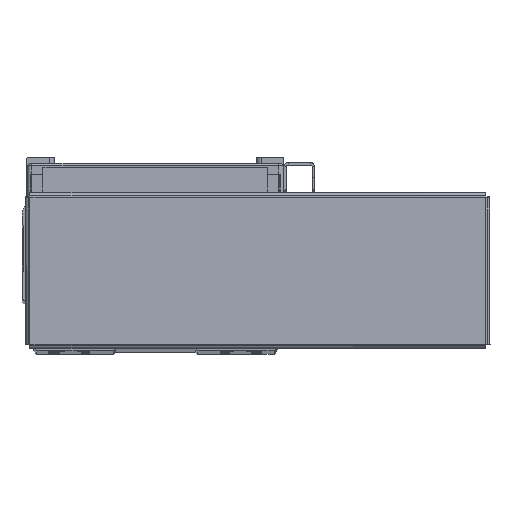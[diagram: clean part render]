
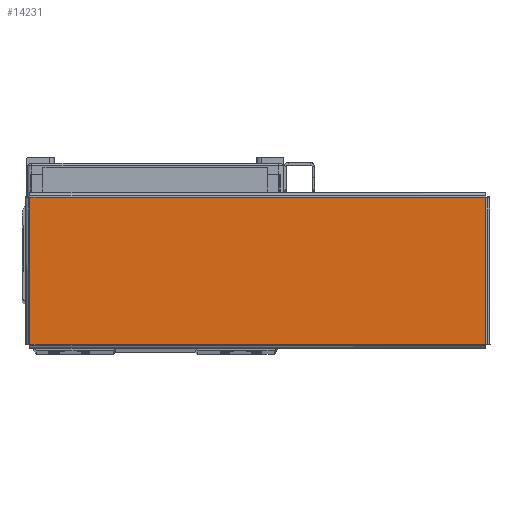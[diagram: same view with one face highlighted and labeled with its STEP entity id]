
A CAD part, top view. The second image highlights one B-rep face of the part: STEP entity #14231.
In plain terms, the highlighted planar face has unit normal (0, 0, 1) as drawn and (0, -1, 0) by its records, which use the part's own axes.
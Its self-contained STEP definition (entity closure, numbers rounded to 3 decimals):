
#1088 = CARTESIAN_POINT ( 'NONE',  ( 92.293, -1., 29.763 ) ) ;
#1089 = DIRECTION ( 'NONE',  ( -1., 0., 0. ) ) ;
#1215 = DIRECTION ( 'NONE',  ( 0., 0., 1. ) ) ;
#1226 = CARTESIAN_POINT ( 'NONE',  ( 92.263, -1., -29.793 ) ) ;
#1508 = CARTESIAN_POINT ( 'NONE',  ( -92.263, -1., 29.793 ) ) ;
#1515 = DIRECTION ( 'NONE',  ( 1., 0., 0. ) ) ;
#1535 = CARTESIAN_POINT ( 'NONE',  ( -92.293, -1., -29.763 ) ) ;
#1568 = DIRECTION ( 'NONE',  ( 0., 0., -1. ) ) ;
#14231 = ADVANCED_FACE ( 'NONE', ( #26248 ), #23629, .F. ) ;
#23624 = CARTESIAN_POINT ( 'NONE',  ( 0., -1., 0. ) ) ;
#23626 = DIRECTION ( 'NONE',  ( 0., 1., 0. ) ) ;
#23629 = PLANE ( 'NONE',  #41438 ) ;
#23631 = DIRECTION ( 'NONE',  ( 0., 0., 1. ) ) ;
#26248 = FACE_OUTER_BOUND ( 'NONE', #29613, .T. ) ;
#29613 = EDGE_LOOP ( 'NONE', ( #39110, #39113, #39080, #39117 ) ) ;
#31467 = EDGE_CURVE ( 'NONE', #47081, #47125, #41855, .T. ) ;
#31493 = EDGE_CURVE ( 'NONE', #47034, #47081, #41810, .T. ) ;
#31614 = EDGE_CURVE ( 'NONE', #47131, #47034, #41951, .T. ) ;
#31616 = EDGE_CURVE ( 'NONE', #47125, #47131, #41977, .T. ) ;
#33780 = CARTESIAN_POINT ( 'NONE',  ( 92.263, -1., -29.763 ) ) ;
#33855 = CARTESIAN_POINT ( 'NONE',  ( 92.263, -1., 29.763 ) ) ;
#33897 = CARTESIAN_POINT ( 'NONE',  ( -92.263, -1., -29.763 ) ) ;
#33918 = CARTESIAN_POINT ( 'NONE',  ( -92.263, -1., 29.763 ) ) ;
#39080 = ORIENTED_EDGE ( 'NONE', *, *, #31467, .T. ) ;
#39110 = ORIENTED_EDGE ( 'NONE', *, *, #31614, .T. ) ;
#39113 = ORIENTED_EDGE ( 'NONE', *, *, #31493, .T. ) ;
#39117 = ORIENTED_EDGE ( 'NONE', *, *, #31616, .T. ) ;
#41438 = AXIS2_PLACEMENT_3D ( 'NONE', #23624, #23626, #23631 ) ;
#41810 = LINE ( 'NONE', #1226, #41846 ) ;
#41816 = VECTOR ( 'NONE', #1089, 1000. ) ;
#41846 = VECTOR ( 'NONE', #1215, 1000. ) ;
#41855 = LINE ( 'NONE', #1088, #41816 ) ;
#41945 = VECTOR ( 'NONE', #1568, 1000. ) ;
#41951 = LINE ( 'NONE', #1535, #41961 ) ;
#41961 = VECTOR ( 'NONE', #1515, 1000. ) ;
#41977 = LINE ( 'NONE', #1508, #41945 ) ;
#47034 = VERTEX_POINT ( 'NONE', #33780 ) ;
#47081 = VERTEX_POINT ( 'NONE', #33855 ) ;
#47125 = VERTEX_POINT ( 'NONE', #33918 ) ;
#47131 = VERTEX_POINT ( 'NONE', #33897 ) ;
